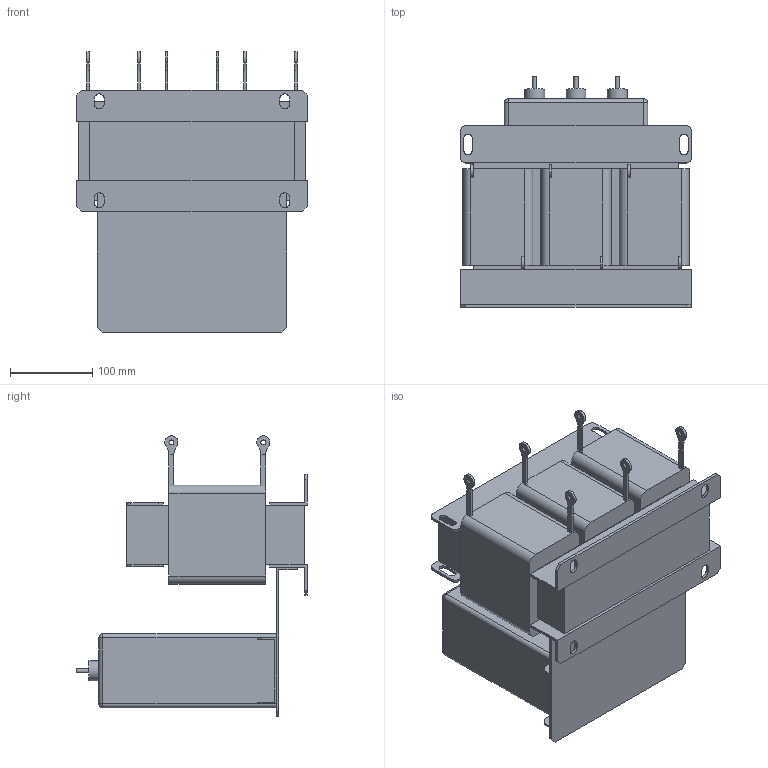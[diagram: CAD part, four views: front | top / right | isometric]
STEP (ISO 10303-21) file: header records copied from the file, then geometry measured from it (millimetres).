
FILE_DESCRIPTION(/* description */ (''),/* implementation_level */ '2;1');
FILE_NAME(/* name */ 'Sin-T6-030.stp',/* time_stamp */ '2025-03-05T16:26:22+04:00',/* author */ ('Лео'),/* organization */ (''),/* preprocessor_version */ 'ST-DEVELOPER v19.2',/* originating_system */ 'Autodesk Inventor 2024',/* authorisation */ '');
FILE_SCHEMA (('AUTOMOTIVE_DESIGN { 1 0 10303 214 3 1 1 }'));
Length unit declared in the file: millimetre
Products named in the file (1): Sin-T4-004
Bounding box: 280 x 280 x 340 mm (x, y, z)
Volume: 9093733.8 mm3; surface area: 743330.6 mm2
Topology: 25 solids, 25 shells, 258 faces, 606 edges, 398 vertices
Faces by surface type: plane 176, cylinder 78, sphere 4
Full cylindrical faces by diameter (mm): 5 x3, 6 x6, 24 x3
Entity records: 7445 total; most frequent: DIRECTION 1280, CARTESIAN_POINT 1263, ORIENTED_EDGE 1212, EDGE_CURVE 606, LINE 450, VECTOR 450, AXIS2_PLACEMENT_3D 415, VERTEX_POINT 398
